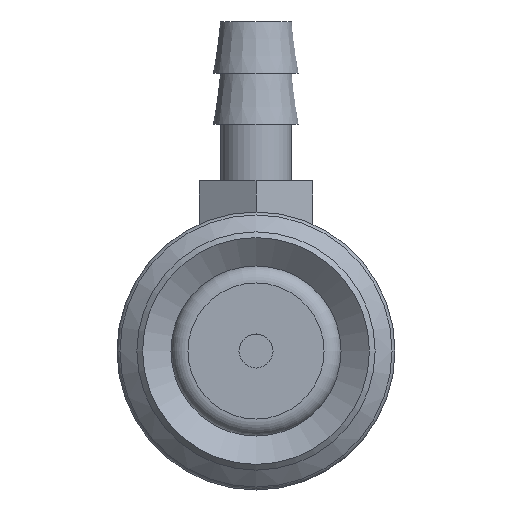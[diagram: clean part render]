
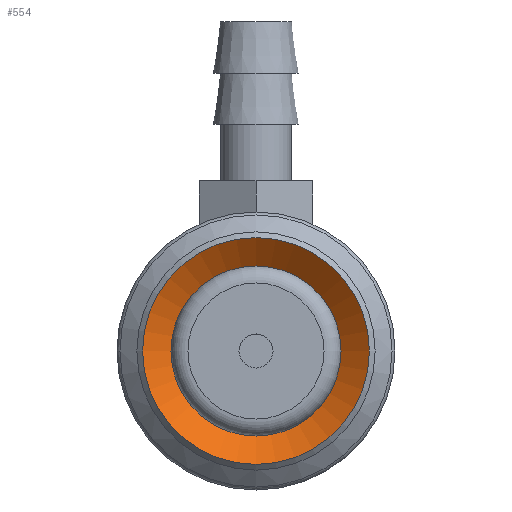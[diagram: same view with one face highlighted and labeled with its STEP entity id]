
A CAD part, front view. The second image highlights one B-rep face of the part: STEP entity #554.
In plain terms, the highlighted conical face has half-angle 52 degrees and reference radius 3 mm.
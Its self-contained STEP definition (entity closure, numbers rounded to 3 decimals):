
#554=ADVANCED_FACE('',(#820,#821),#822,.F.);
#820=FACE_BOUND('',#1129,.T.);
#821=FACE_OUTER_BOUND('',#1130,.T.);
#822=CONICAL_SURFACE('',#1131,3.0,0.908);
#1129=EDGE_LOOP('',(#1855));
#1130=EDGE_LOOP('',(#1856));
#1131=AXIS2_PLACEMENT_3D('',#1857,#1858,#1859);
#1855=ORIENTED_EDGE('',*,*,#2184,.F.);
#1856=ORIENTED_EDGE('',*,*,#2177,.T.);
#1857=CARTESIAN_POINT('',(0.0,7.741,0.));
#1858=DIRECTION('',(-0.0,-1.0,0.));
#1859=DIRECTION('',(0.0,0.,-1.0));
#2177=EDGE_CURVE('',#2510,#2510,#2511,.T.);
#2184=EDGE_CURVE('',#2524,#2524,#2525,.T.);
#2510=VERTEX_POINT('',#3252);
#2511=CIRCLE('',#3253,4.0);
#2524=VERTEX_POINT('',#3266);
#2525=CIRCLE('',#3267,3.0);
#3252=CARTESIAN_POINT('',(0.0,6.96,-4.0));
#3253=AXIS2_PLACEMENT_3D('',#3597,#3598,#3599);
#3266=CARTESIAN_POINT('',(0.0,7.741,-3.0));
#3267=AXIS2_PLACEMENT_3D('',#3618,#3619,#3620);
#3597=CARTESIAN_POINT('',(0.0,6.96,0.0));
#3598=DIRECTION('',(0.0,-1.0,0.));
#3599=DIRECTION('',(0.0,0.,-1.0));
#3618=CARTESIAN_POINT('',(0.0,7.741,0.));
#3619=DIRECTION('',(0.0,-1.0,0.));
#3620=DIRECTION('',(0.0,0.,-1.0));
